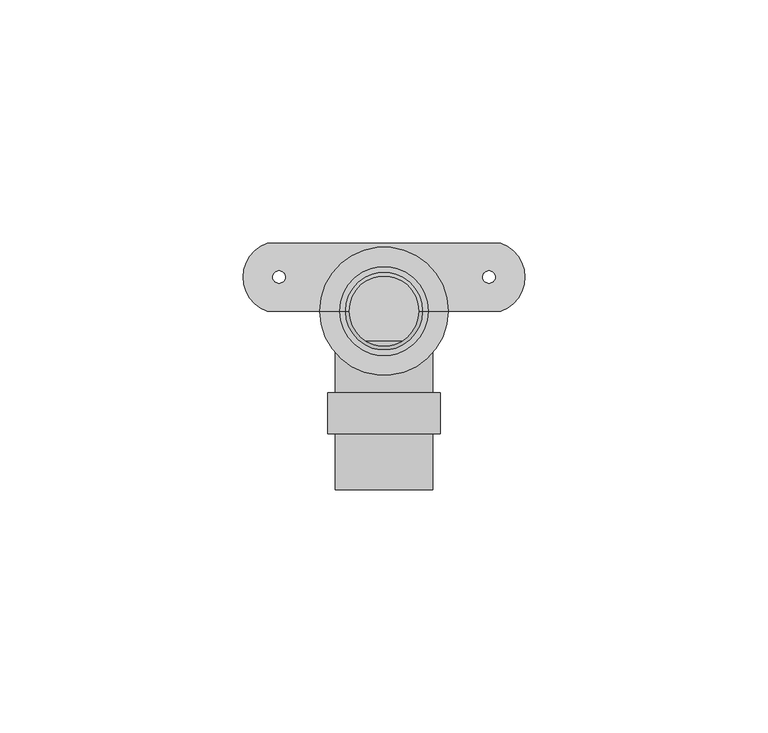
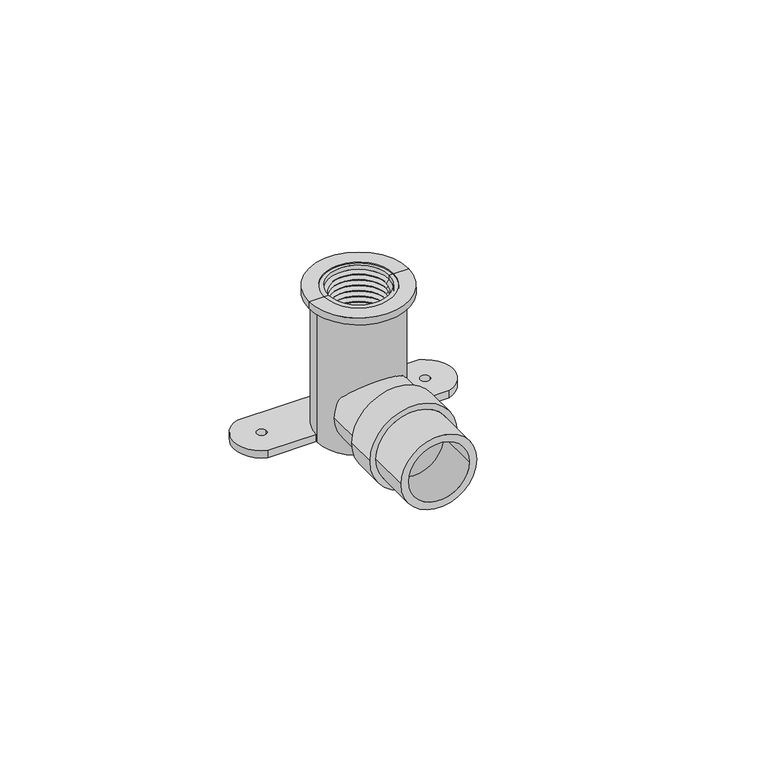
"""IFC4 building model written with IfcOpenShell, lengths in millimetres: valve geometry, Codo con Oreja con ins Metalico_Lubrizol_CPVC_FlowGuard_MX 13mm : Codo con Oreja con ins Metalico_Lubrizol_CPVC_FlowGuard_MX 13mm."""

from ifc_helpers import new_model, si_unit, point, frame, frame_2d, origin, origin_with_axes, origin_2d, place, context, project, spatial, polyline, circle_curve, trimmed, segment, composite_curve, outline, extrude, source, transform, mapped, element, save
from ifc_brep_helpers import plane_surface, cylinder_surface, revolved_surface, advanced_brep


def valve_4161f7cc(model_context):
    return source(origin(), model_context, "Body", "SolidModel", [
        extrude(outline(composite_curve([segment(trimmed(circle_curve(frame_2d((9.8875332, 0.0)), 10.0), [point((9.8875332, -10.0))], [point((9.8875332, 10.0))], False, "CARTESIAN"), True, "CONTINUOUS"), segment(trimmed(circle_curve(frame_2d((9.8875332, 0.0)), 10.0), [point((9.8875332, 10.0))], [point((9.8875332, -10.0))], False, "CARTESIAN"), True, "CONTINUOUS")], self_intersect=False), holes=[composite_curve([segment(trimmed(circle_curve(frame_2d((9.8875332, 0.0)), 8.0), [point((9.8875332, -8.0))], [point((9.8875332, 8.0))], True, "CARTESIAN"), True, "CONTINUOUS"), segment(trimmed(circle_curve(frame_2d((9.8875332, 0.0)), 8.0), [point((9.8875332, 8.0))], [point((9.8875332, -8.0))], True, "CARTESIAN"), True, "CONTINUOUS")], self_intersect=False)]), frame((0.0, -16.8122261, 0.0), z_axis=(0.0, 1.0, 0.0), x_axis=(0.0, 0.0, 1.0)), (0.0, 0.0, 1.0), 10.5840836),
        extrude(outline(composite_curve([segment(trimmed(circle_curve(frame_2d((9.8875332, 0.0)), 11.5511353), [point((9.8875332, -11.5511353))], [point((9.8875332, 11.5511353))], False, "CARTESIAN"), True, "CONTINUOUS"), segment(trimmed(circle_curve(frame_2d((9.8875332, 0.0)), 11.5511353), [point((9.8875332, 11.5511353))], [point((9.8875332, -11.5511353))], False, "CARTESIAN"), True, "CONTINUOUS")], self_intersect=False), holes=[composite_curve([segment(trimmed(circle_curve(frame_2d((9.8875332, 0.0)), 10.0), [point((9.8875332, -10.0))], [point((9.8875332, 10.0))], True, "CARTESIAN"), True, "CONTINUOUS"), segment(trimmed(circle_curve(frame_2d((9.8875332, 0.0)), 10.0), [point((9.8875332, 10.0))], [point((9.8875332, -10.0))], True, "CARTESIAN"), True, "CONTINUOUS")], self_intersect=False)]), frame((0.0, -25.2125014, 0.0), z_axis=(0.0, 1.0, 0.0), x_axis=(0.0, 0.0, 1.0)), (0.0, 0.0, 1.0), 8.4002753),
        advanced_brep(
        [(-9.1904738, 0.0, -0.0478204), (9.1904738, 0.0, -0.0478204), (9.1904738, 0.0, 39.8365206), (-9.1904738, 0.0, 39.8365206), (-11.0898031, 0.0, -0.0478204), (11.0898031, 0.0, -0.0478204), (-11.0898031, 0.0, 37.9677146), (11.0898031, 0.0, 37.9677146), (-13.2, 0.0, 37.9677146), (13.2, 0.0, 37.9677146), (-13.2, 0.0, 39.8365206), (13.2, 0.0, 39.8365206)],
        [
            (0, 1, circle_curve(frame((0.0, 0.0, -0.0478204), z_axis=(0.0, 0.0, -1.0), x_axis=(1.0, 0.0, 0.0)), 9.1904738)),
            (1, 2),
            (2, 3, circle_curve(frame((0.0, 0.0, 39.8365206), z_axis=(0.0, 0.0, 1.0), x_axis=(1.0, 0.0, 0.0)), 9.1904738)),
            (3, 0),
            (1, 0, circle_curve(frame((0.0, 0.0, -0.0478204), z_axis=(0.0, 0.0, -1.0), x_axis=(1.0, 0.0, 0.0)), 9.1904738)),
            (3, 2, circle_curve(frame((0.0, 0.0, 39.8365206), z_axis=(0.0, 0.0, 1.0), x_axis=(1.0, 0.0, 0.0)), 9.1904738)),
            (4, 5, circle_curve(frame((0.0, 0.0, -0.0478204), z_axis=(0.0, 0.0, -1.0), x_axis=(1.0, 0.0, 0.0)), 11.0898031)),
            (5, 1),
            (0, 4),
            (5, 4, circle_curve(frame((0.0, 0.0, -0.0478204), z_axis=(0.0, 0.0, -1.0), x_axis=(1.0, 0.0, 0.0)), 11.0898031)),
            (6, 7, circle_curve(frame((0.0, 0.0, 37.9677146), z_axis=(0.0, 0.0, -1.0), x_axis=(1.0, 0.0, 0.0)), 11.0898031)),
            (7, 5),
            (4, 6),
            (7, 6, circle_curve(frame((0.0, 0.0, 37.9677146), z_axis=(0.0, 0.0, -1.0), x_axis=(1.0, 0.0, 0.0)), 11.0898031)),
            (8, 9, circle_curve(frame((0.0, 0.0, 37.9677146), z_axis=(0.0, 0.0, -1.0), x_axis=(1.0, 0.0, 0.0)), 13.2)),
            (9, 7),
            (6, 8),
            (9, 8, circle_curve(frame((0.0, 0.0, 37.9677146), z_axis=(0.0, 0.0, -1.0), x_axis=(1.0, 0.0, 0.0)), 13.2)),
            (10, 11, circle_curve(frame((0.0, 0.0, 39.8365206), z_axis=(0.0, 0.0, -1.0), x_axis=(1.0, 0.0, 0.0)), 13.2)),
            (11, 9),
            (8, 10),
            (11, 10, circle_curve(frame((0.0, 0.0, 39.8365206), z_axis=(0.0, 0.0, -1.0), x_axis=(1.0, 0.0, 0.0)), 13.2)),
            (2, 11),
            (10, 3),
        ],
        [
            revolved_surface(polyline([(9.1904738, 0.0, 39.8365206), (9.1904738, 0.0, -0.0478203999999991)]), (0.0, 0.0, 44.8365206), (0.0, 0.0, 1.0)),
            plane_surface(frame((0.0, 0.0, -0.0478204), z_axis=(0.0, 0.0, -1.0), x_axis=(1.0, 0.0, 0.0))),
            cylinder_surface(frame((0.0, 0.0, 44.8365206), z_axis=(0.0, 0.0, 1.0), x_axis=(1.0, 0.0, 0.0)), 11.0898031),
            plane_surface(frame((0.0, 0.0, 37.9677146), z_axis=(0.0, 0.0, -1.0), x_axis=(1.0, 0.0, 0.0))),
            cylinder_surface(frame((0.0, 0.0, 44.8365206), z_axis=(0.0, 0.0, 1.0), x_axis=(1.0, 0.0, 0.0)), 13.2),
            plane_surface(frame((0.0, 0.0, 39.8365206), z_axis=(0.0, 0.0, 1.0), x_axis=(1.0, 0.0, 0.0))),
        ],
        [
            (0, [[1, 2, 3, 4]]),
            (0, [[5, -4, 6, -2]]),
            (1, [[7, 8, -1, 9]]),
            (1, [[10, -9, -5, -8]]),
            (2, [[11, 12, -7, 13]]),
            (2, [[14, -13, -10, -12]]),
            (3, [[15, 16, -11, 17]]),
            (3, [[18, -17, -14, -16]]),
            (4, [[19, 20, -15, 21]]),
            (4, [[22, -21, -18, -20]]),
            (5, [[-3, 23, -19, 24]]),
            (5, [[-6, -24, -22, -23]]),
        ],
    ),
        extrude(outline(composite_curve([segment(polyline([(-24.0, 14.0), (0.0, 14.0), (24.0, 14.0)]), True, "CONTINUOUS"), segment(trimmed(circle_curve(frame_2d((21.6, 7.0)), 7.4), [point((24.0, 14.0))], [point((24.0, 0.0))], False, "CARTESIAN"), True, "CONTINUOUS"), segment(polyline([(24.0, 0.0), (11.0898031, 0.0)]), True, "CONTINUOUS"), segment(trimmed(circle_curve(origin_2d(), 11.0898031), [point((11.0898031, 0.0))], [point((-11.0898031, 0.0))], False, "CARTESIAN"), True, "CONTINUOUS"), segment(polyline([(-11.0898031, 0.0), (-24.0, 0.0)]), True, "CONTINUOUS"), segment(trimmed(circle_curve(frame_2d((-21.6, 7.0)), 7.4), [point((-24.0, 0.0))], [point((-24.0, 14.0))], False, "CARTESIAN"), True, "CONTINUOUS")], self_intersect=False), holes=[composite_curve([segment(trimmed(circle_curve(frame_2d((21.6, 7.0)), 1.27), [point((20.33, 7.0))], [point((22.87, 7.0))], True, "CARTESIAN"), True, "CONTINUOUS"), segment(trimmed(circle_curve(frame_2d((21.6, 7.0)), 1.27), [point((22.87, 7.0))], [point((20.33, 7.0))], True, "CARTESIAN"), True, "CONTINUOUS")], self_intersect=False), composite_curve([segment(trimmed(circle_curve(frame_2d((-21.6, 7.0)), 1.27), [point((-20.33, 7.0))], [point((-22.87, 7.0))], True, "CARTESIAN"), True, "CONTINUOUS"), segment(trimmed(circle_curve(frame_2d((-21.6, 7.0)), 1.27), [point((-22.87, 7.0))], [point((-20.33, 7.0))], True, "CARTESIAN"), True, "CONTINUOUS")], self_intersect=False)]), origin_with_axes(), (0.0, 0.0, 1.0), 2.0104025),
        advanced_brep(
        [(10.0, 0.0, 9.8875332), (-10.0, 0.0, 9.8875332), (-10.0, 0.0, 39.8365206), (10.0, 0.0, 39.8365206), (8.0, 0.0, 9.8875332), (-8.0, 0.0, 9.8875332), (8.0, 0.0, 18.8060667), (-8.0, 0.0, 18.8060667), (7.2373503, 0.0, 19.5687164), (-7.2373503, 0.0, 19.5687164), (8.0, 0.0, 20.3313661), (-8.0, 0.0, 20.3313661), (7.2373503, 0.0, 21.0940159), (-7.2373503, 0.0, 21.0940159), (8.0, 0.0, 21.8566656), (-8.0, 0.0, 21.8566656), (7.2373503, 0.0, 22.6193153), (-7.2373503, 0.0, 22.6193153), (8.0, 0.0, 23.381965), (-8.0, 0.0, 23.381965), (7.2373503, 0.0, 24.1446148), (-7.2373503, 0.0, 24.1446148), (8.0, 0.0, 24.9072645), (-8.0, 0.0, 24.9072645), (7.2373503, 0.0, 25.6699142), (-7.2373503, 0.0, 25.6699142), (8.0, 0.0, 26.432564), (-8.0, 0.0, 26.432564), (7.2373503, 0.0, 27.1952137), (-7.2373503, 0.0, 27.1952137), (8.0, 0.0, 27.9578634), (-8.0, 0.0, 27.9578634), (7.2373503, 0.0, 28.7205131), (-7.2373503, 0.0, 28.7205131), (8.0, 0.0, 29.4831629), (-8.0, 0.0, 29.4831629), (7.2373503, 0.0, 30.2458126), (-7.2373503, 0.0, 30.2458126), (8.0, 0.0, 31.0084623), (-8.0, 0.0, 31.0084623), (7.2373503, 0.0, 31.771112), (-7.2373503, 0.0, 31.771112), (8.0, 0.0, 32.5337618), (-8.0, 0.0, 32.5337618), (7.2373503, 0.0, 33.2964115), (-7.2373503, 0.0, 33.2964115), (8.0, 0.0, 34.0590612), (-8.0, 0.0, 34.0590612), (7.2373503, 0.0, 34.821711), (-7.2373503, 0.0, 34.821711), (8.0, 0.0, 35.5843607), (-8.0, 0.0, 35.5843607), (7.2373503, 0.0, 36.3470104), (-7.2373503, 0.0, 36.3470104), (8.0, 0.0, 37.1096601), (-8.0, 0.0, 37.1096601), (7.2373503, 0.0, 37.8723099), (-7.2373503, 0.0, 37.8723099), (8.0, 0.0, 38.6349596), (-8.0, 0.0, 38.6349596), (8.0, 0.0, 39.8365206), (-8.0, 0.0, 39.8365206)],
        [
            (0, 1, circle_curve(frame((0.0, 0.0, 9.8875332), z_axis=(0.0, 0.0, 1.0), x_axis=(-1.0, 0.0, 0.0)), 10.0)),
            (1, 2),
            (2, 3, circle_curve(frame((0.0, 0.0, 39.8365206), z_axis=(0.0, 0.0, -1.0), x_axis=(-1.0, 0.0, 0.0)), 10.0)),
            (3, 0),
            (1, 0, circle_curve(frame((0.0, 0.0, 9.8875332), z_axis=(0.0, 0.0, 1.0), x_axis=(-1.0, 0.0, 0.0)), 10.0)),
            (3, 2, circle_curve(frame((0.0, 0.0, 39.8365206), z_axis=(0.0, 0.0, -1.0), x_axis=(-1.0, 0.0, 0.0)), 10.0)),
            (4, 5, circle_curve(frame((0.0, 0.0, 9.8875332), z_axis=(0.0, 0.0, 1.0), x_axis=(-1.0, 0.0, 0.0)), 8.0)),
            (5, 1),
            (0, 4),
            (5, 4, circle_curve(frame((0.0, 0.0, 9.8875332), z_axis=(0.0, 0.0, 1.0), x_axis=(-1.0, 0.0, 0.0)), 8.0)),
            (6, 7, circle_curve(frame((0.0, 0.0, 18.8060667), z_axis=(0.0, 0.0, 1.0), x_axis=(-1.0, 0.0, 0.0)), 8.0)),
            (7, 5),
            (4, 6),
            (7, 6, circle_curve(frame((0.0, 0.0, 18.8060667), z_axis=(0.0, 0.0, 1.0), x_axis=(-1.0, 0.0, 0.0)), 8.0)),
            (8, 9, circle_curve(frame((0.0, 0.0, 19.5687164), z_axis=(0.0, 0.0, 1.0), x_axis=(-1.0, 0.0, 0.0)), 7.2373503)),
            (9, 7),
            (6, 8),
            (9, 8, circle_curve(frame((0.0, 0.0, 19.5687164), z_axis=(0.0, 0.0, 1.0), x_axis=(-1.0, 0.0, 0.0)), 7.2373503)),
            (10, 11, circle_curve(frame((0.0, 0.0, 20.3313661), z_axis=(0.0, 0.0, 1.0), x_axis=(-1.0, 0.0, 0.0)), 8.0)),
            (11, 9),
            (8, 10),
            (11, 10, circle_curve(frame((0.0, 0.0, 20.3313661), z_axis=(0.0, 0.0, 1.0), x_axis=(-1.0, 0.0, 0.0)), 8.0)),
            (12, 13, circle_curve(frame((0.0, 0.0, 21.0940159), z_axis=(0.0, 0.0, 1.0), x_axis=(-1.0, 0.0, 0.0)), 7.2373503)),
            (13, 11),
            (10, 12),
            (13, 12, circle_curve(frame((0.0, 0.0, 21.0940159), z_axis=(0.0, 0.0, 1.0), x_axis=(-1.0, 0.0, 0.0)), 7.2373503)),
            (14, 15, circle_curve(frame((0.0, 0.0, 21.8566656), z_axis=(0.0, 0.0, 1.0), x_axis=(-1.0, 0.0, 0.0)), 8.0)),
            (15, 13),
            (12, 14),
            (15, 14, circle_curve(frame((0.0, 0.0, 21.8566656), z_axis=(0.0, 0.0, 1.0), x_axis=(-1.0, 0.0, 0.0)), 8.0)),
            (16, 17, circle_curve(frame((0.0, 0.0, 22.6193153), z_axis=(0.0, 0.0, 1.0), x_axis=(-1.0, 0.0, 0.0)), 7.2373503)),
            (17, 15),
            (14, 16),
            (17, 16, circle_curve(frame((0.0, 0.0, 22.6193153), z_axis=(0.0, 0.0, 1.0), x_axis=(-1.0, 0.0, 0.0)), 7.2373503)),
            (18, 19, circle_curve(frame((0.0, 0.0, 23.381965), z_axis=(0.0, 0.0, 1.0), x_axis=(-1.0, 0.0, 0.0)), 8.0)),
            (19, 17),
            (16, 18),
            (19, 18, circle_curve(frame((0.0, 0.0, 23.381965), z_axis=(0.0, 0.0, 1.0), x_axis=(-1.0, 0.0, 0.0)), 8.0)),
            (20, 21, circle_curve(frame((0.0, 0.0, 24.1446148), z_axis=(0.0, 0.0, 1.0), x_axis=(-1.0, 0.0, 0.0)), 7.2373503)),
            (21, 19),
            (18, 20),
            (21, 20, circle_curve(frame((0.0, 0.0, 24.1446148), z_axis=(0.0, 0.0, 1.0), x_axis=(-1.0, 0.0, 0.0)), 7.2373503)),
            (22, 23, circle_curve(frame((0.0, 0.0, 24.9072645), z_axis=(0.0, 0.0, 1.0), x_axis=(-1.0, 0.0, 0.0)), 8.0)),
            (23, 21),
            (20, 22),
            (23, 22, circle_curve(frame((0.0, 0.0, 24.9072645), z_axis=(0.0, 0.0, 1.0), x_axis=(-1.0, 0.0, 0.0)), 8.0)),
            (24, 25, circle_curve(frame((0.0, 0.0, 25.6699142), z_axis=(0.0, 0.0, 1.0), x_axis=(-1.0, 0.0, 0.0)), 7.2373503)),
            (25, 23),
            (22, 24),
            (25, 24, circle_curve(frame((0.0, 0.0, 25.6699142), z_axis=(0.0, 0.0, 1.0), x_axis=(-1.0, 0.0, 0.0)), 7.2373503)),
            (26, 27, circle_curve(frame((0.0, 0.0, 26.432564), z_axis=(0.0, 0.0, 1.0), x_axis=(-1.0, 0.0, 0.0)), 8.0)),
            (27, 25),
            (24, 26),
            (27, 26, circle_curve(frame((0.0, 0.0, 26.432564), z_axis=(0.0, 0.0, 1.0), x_axis=(-1.0, 0.0, 0.0)), 8.0)),
            (28, 29, circle_curve(frame((0.0, 0.0, 27.1952137), z_axis=(0.0, 0.0, 1.0), x_axis=(-1.0, 0.0, 0.0)), 7.2373503)),
            (29, 27),
            (26, 28),
            (29, 28, circle_curve(frame((0.0, 0.0, 27.1952137), z_axis=(0.0, 0.0, 1.0), x_axis=(-1.0, 0.0, 0.0)), 7.2373503)),
            (30, 31, circle_curve(frame((0.0, 0.0, 27.9578634), z_axis=(0.0, 0.0, 1.0), x_axis=(-1.0, 0.0, 0.0)), 8.0)),
            (31, 29),
            (28, 30),
            (31, 30, circle_curve(frame((0.0, 0.0, 27.9578634), z_axis=(0.0, 0.0, 1.0), x_axis=(-1.0, 0.0, 0.0)), 8.0)),
            (32, 33, circle_curve(frame((0.0, 0.0, 28.7205131), z_axis=(0.0, 0.0, 1.0), x_axis=(-1.0, 0.0, 0.0)), 7.2373503)),
            (33, 31),
            (30, 32),
            (33, 32, circle_curve(frame((0.0, 0.0, 28.7205131), z_axis=(0.0, 0.0, 1.0), x_axis=(-1.0, 0.0, 0.0)), 7.2373503)),
            (34, 35, circle_curve(frame((0.0, 0.0, 29.4831629), z_axis=(0.0, 0.0, 1.0), x_axis=(-1.0, 0.0, 0.0)), 8.0)),
            (35, 33),
            (32, 34),
            (35, 34, circle_curve(frame((0.0, 0.0, 29.4831629), z_axis=(0.0, 0.0, 1.0), x_axis=(-1.0, 0.0, 0.0)), 8.0)),
            (36, 37, circle_curve(frame((0.0, 0.0, 30.2458126), z_axis=(0.0, 0.0, 1.0), x_axis=(-1.0, 0.0, 0.0)), 7.2373503)),
            (37, 35),
            (34, 36),
            (37, 36, circle_curve(frame((0.0, 0.0, 30.2458126), z_axis=(0.0, 0.0, 1.0), x_axis=(-1.0, 0.0, 0.0)), 7.2373503)),
            (38, 39, circle_curve(frame((0.0, 0.0, 31.0084623), z_axis=(0.0, 0.0, 1.0), x_axis=(-1.0, 0.0, 0.0)), 8.0)),
            (39, 37),
            (36, 38),
            (39, 38, circle_curve(frame((0.0, 0.0, 31.0084623), z_axis=(0.0, 0.0, 1.0), x_axis=(-1.0, 0.0, 0.0)), 8.0)),
            (40, 41, circle_curve(frame((0.0, 0.0, 31.771112), z_axis=(0.0, 0.0, 1.0), x_axis=(-1.0, 0.0, 0.0)), 7.2373503)),
            (41, 39),
            (38, 40),
            (41, 40, circle_curve(frame((0.0, 0.0, 31.771112), z_axis=(0.0, 0.0, 1.0), x_axis=(-1.0, 0.0, 0.0)), 7.2373503)),
            (42, 43, circle_curve(frame((0.0, 0.0, 32.5337618), z_axis=(0.0, 0.0, 1.0), x_axis=(-1.0, 0.0, 0.0)), 8.0)),
            (43, 41),
            (40, 42),
            (43, 42, circle_curve(frame((0.0, 0.0, 32.5337618), z_axis=(0.0, 0.0, 1.0), x_axis=(-1.0, 0.0, 0.0)), 8.0)),
            (44, 45, circle_curve(frame((0.0, 0.0, 33.2964115), z_axis=(0.0, 0.0, 1.0), x_axis=(-1.0, 0.0, 0.0)), 7.2373503)),
            (45, 43),
            (42, 44),
            (45, 44, circle_curve(frame((0.0, 0.0, 33.2964115), z_axis=(0.0, 0.0, 1.0), x_axis=(-1.0, 0.0, 0.0)), 7.2373503)),
            (46, 47, circle_curve(frame((0.0, 0.0, 34.0590612), z_axis=(0.0, 0.0, 1.0), x_axis=(-1.0, 0.0, 0.0)), 8.0)),
            (47, 45),
            (44, 46),
            (47, 46, circle_curve(frame((0.0, 0.0, 34.0590612), z_axis=(0.0, 0.0, 1.0), x_axis=(-1.0, 0.0, 0.0)), 8.0)),
            (48, 49, circle_curve(frame((0.0, 0.0, 34.821711), z_axis=(0.0, 0.0, 1.0), x_axis=(-1.0, 0.0, 0.0)), 7.2373503)),
            (49, 47),
            (46, 48),
            (49, 48, circle_curve(frame((0.0, 0.0, 34.821711), z_axis=(0.0, 0.0, 1.0), x_axis=(-1.0, 0.0, 0.0)), 7.2373503)),
            (50, 51, circle_curve(frame((0.0, 0.0, 35.5843607), z_axis=(0.0, 0.0, 1.0), x_axis=(-1.0, 0.0, 0.0)), 8.0)),
            (51, 49),
            (48, 50),
            (51, 50, circle_curve(frame((0.0, 0.0, 35.5843607), z_axis=(0.0, 0.0, 1.0), x_axis=(-1.0, 0.0, 0.0)), 8.0)),
            (52, 53, circle_curve(frame((0.0, 0.0, 36.3470104), z_axis=(0.0, 0.0, 1.0), x_axis=(-1.0, 0.0, 0.0)), 7.2373503)),
            (53, 51),
            (50, 52),
            (53, 52, circle_curve(frame((0.0, 0.0, 36.3470104), z_axis=(0.0, 0.0, 1.0), x_axis=(-1.0, 0.0, 0.0)), 7.2373503)),
            (54, 55, circle_curve(frame((0.0, 0.0, 37.1096601), z_axis=(0.0, 0.0, 1.0), x_axis=(-1.0, 0.0, 0.0)), 8.0)),
            (55, 53),
            (52, 54),
            (55, 54, circle_curve(frame((0.0, 0.0, 37.1096601), z_axis=(0.0, 0.0, 1.0), x_axis=(-1.0, 0.0, 0.0)), 8.0)),
            (56, 57, circle_curve(frame((0.0, 0.0, 37.8723099), z_axis=(0.0, 0.0, 1.0), x_axis=(-1.0, 0.0, 0.0)), 7.2373503)),
            (57, 55),
            (54, 56),
            (57, 56, circle_curve(frame((0.0, 0.0, 37.8723099), z_axis=(0.0, 0.0, 1.0), x_axis=(-1.0, 0.0, 0.0)), 7.2373503)),
            (58, 59, circle_curve(frame((0.0, 0.0, 38.6349596), z_axis=(0.0, 0.0, 1.0), x_axis=(-1.0, 0.0, 0.0)), 8.0)),
            (59, 57),
            (56, 58),
            (59, 58, circle_curve(frame((0.0, 0.0, 38.6349596), z_axis=(0.0, 0.0, 1.0), x_axis=(-1.0, 0.0, 0.0)), 8.0)),
            (60, 61, circle_curve(frame((0.0, 0.0, 39.8365206), z_axis=(0.0, 0.0, 1.0), x_axis=(-1.0, 0.0, 0.0)), 8.0)),
            (61, 59),
            (58, 60),
            (61, 60, circle_curve(frame((0.0, 0.0, 39.8365206), z_axis=(0.0, 0.0, 1.0), x_axis=(-1.0, 0.0, 0.0)), 8.0)),
            (2, 61),
            (60, 3),
        ],
        [
            cylinder_surface(frame((0.0, 0.0, 39.8365206), z_axis=(0.0, 0.0, -1.0), x_axis=(-1.0, 0.0, 0.0)), 10.0),
            plane_surface(frame((0.0, 0.0, 9.8875332), z_axis=(0.0, 0.0, -1.0), x_axis=(-1.0, 0.0, 0.0))),
            revolved_surface(polyline([(-8.0, 0.0, 9.8875332), (-8.0, 0.0, 18.8060667)]), (0.0, 0.0, 39.8365206), (0.0, 0.0, -1.0)),
            revolved_surface(polyline([(-8.0, 0.0, 18.8060667), (-7.2373503, 0.0, 19.5687164)]), (0.0, 0.0, 39.8365206), (0.0, 0.0, -1.0)),
            revolved_surface(polyline([(-7.2373503, 0.0, 19.5687164), (-8.0, 0.0, 20.3313661)]), (0.0, 0.0, 39.8365206), (0.0, 0.0, -1.0)),
            revolved_surface(polyline([(-8.0, 0.0, 20.3313661), (-7.2373503, 0.0, 21.0940159)]), (0.0, 0.0, 39.8365206), (0.0, 0.0, -1.0)),
            revolved_surface(polyline([(-7.2373503, 0.0, 21.0940159), (-8.0, 0.0, 21.8566656)]), (0.0, 0.0, 39.8365206), (0.0, 0.0, -1.0)),
            revolved_surface(polyline([(-8.0, 0.0, 21.8566656), (-7.2373503, 0.0, 22.6193153)]), (0.0, 0.0, 39.8365206), (0.0, 0.0, -1.0)),
            revolved_surface(polyline([(-7.2373503, 0.0, 22.6193153), (-8.0, 0.0, 23.381965)]), (0.0, 0.0, 39.8365206), (0.0, 0.0, -1.0)),
            revolved_surface(polyline([(-8.0, 0.0, 23.381965), (-7.2373503, 0.0, 24.1446148)]), (0.0, 0.0, 39.8365206), (0.0, 0.0, -1.0)),
            revolved_surface(polyline([(-7.2373503, 0.0, 24.1446148), (-8.0, 0.0, 24.9072645)]), (0.0, 0.0, 39.8365206), (0.0, 0.0, -1.0)),
            revolved_surface(polyline([(-8.0, 0.0, 24.9072645), (-7.2373503, 0.0, 25.6699142)]), (0.0, 0.0, 39.8365206), (0.0, 0.0, -1.0)),
            revolved_surface(polyline([(-7.2373503, 0.0, 25.6699142), (-8.0, 0.0, 26.432564)]), (0.0, 0.0, 39.8365206), (0.0, 0.0, -1.0)),
            revolved_surface(polyline([(-8.0, 0.0, 26.432564), (-7.2373503, 0.0, 27.1952137)]), (0.0, 0.0, 39.8365206), (0.0, 0.0, -1.0)),
            revolved_surface(polyline([(-7.2373503, 0.0, 27.1952137), (-8.0, 0.0, 27.9578634)]), (0.0, 0.0, 39.8365206), (0.0, 0.0, -1.0)),
            revolved_surface(polyline([(-8.0, 0.0, 27.9578634), (-7.2373503, 0.0, 28.7205131)]), (0.0, 0.0, 39.8365206), (0.0, 0.0, -1.0)),
            revolved_surface(polyline([(-7.2373503, 0.0, 28.7205131), (-8.0, 0.0, 29.4831629)]), (0.0, 0.0, 39.8365206), (0.0, 0.0, -1.0)),
            revolved_surface(polyline([(-8.0, 0.0, 29.4831629), (-7.2373503, 0.0, 30.2458126)]), (0.0, 0.0, 39.8365206), (0.0, 0.0, -1.0)),
            revolved_surface(polyline([(-7.2373503, 0.0, 30.2458126), (-8.0, 0.0, 31.0084623)]), (0.0, 0.0, 39.8365206), (0.0, 0.0, -1.0)),
            revolved_surface(polyline([(-8.0, 0.0, 31.0084623), (-7.2373503, 0.0, 31.771112)]), (0.0, 0.0, 39.8365206), (0.0, 0.0, -1.0)),
            revolved_surface(polyline([(-7.2373503, 0.0, 31.771112), (-8.0, 0.0, 32.5337618)]), (0.0, 0.0, 39.8365206), (0.0, 0.0, -1.0)),
            revolved_surface(polyline([(-8.0, 0.0, 32.5337618), (-7.2373503, 0.0, 33.2964115)]), (0.0, 0.0, 39.8365206), (0.0, 0.0, -1.0)),
            revolved_surface(polyline([(-7.2373503, 0.0, 33.2964115), (-8.0, 0.0, 34.0590612)]), (0.0, 0.0, 39.8365206), (0.0, 0.0, -1.0)),
            revolved_surface(polyline([(-8.0, 0.0, 34.0590612), (-7.2373503, 0.0, 34.821711)]), (0.0, 0.0, 39.8365206), (0.0, 0.0, -1.0)),
            revolved_surface(polyline([(-7.2373503, 0.0, 34.821711), (-8.0, 0.0, 35.5843607)]), (0.0, 0.0, 39.8365206), (0.0, 0.0, -1.0)),
            revolved_surface(polyline([(-8.0, 0.0, 35.5843607), (-7.2373503, 0.0, 36.3470104)]), (0.0, 0.0, 39.8365206), (0.0, 0.0, -1.0)),
            revolved_surface(polyline([(-7.2373503, 0.0, 36.3470104), (-8.0, 0.0, 37.1096601)]), (0.0, 0.0, 39.8365206), (0.0, 0.0, -1.0)),
            revolved_surface(polyline([(-8.0, 0.0, 37.1096601), (-7.2373503, 0.0, 37.8723099)]), (0.0, 0.0, 39.8365206), (0.0, 0.0, -1.0)),
            revolved_surface(polyline([(-7.2373503, 0.0, 37.8723099), (-8.0, 0.0, 38.6349596)]), (0.0, 0.0, 39.8365206), (0.0, 0.0, -1.0)),
            revolved_surface(polyline([(-8.0, 0.0, 38.6349596), (-8.0, 0.0, 39.8365206)]), (0.0, 0.0, 39.8365206), (0.0, 0.0, -1.0)),
            plane_surface(frame((0.0, 0.0, 39.8365206), z_axis=(0.0, 0.0, 1.0), x_axis=(-1.0, 0.0, 0.0))),
        ],
        [
            (0, [[1, 2, 3, 4]]),
            (0, [[5, -4, 6, -2]]),
            (1, [[7, 8, -1, 9]]),
            (1, [[10, -9, -5, -8]]),
            (2, [[11, 12, -7, 13]]),
            (2, [[14, -13, -10, -12]]),
            (3, [[15, 16, -11, 17]]),
            (3, [[18, -17, -14, -16]]),
            (4, [[19, 20, -15, 21]]),
            (4, [[22, -21, -18, -20]]),
            (5, [[23, 24, -19, 25]]),
            (5, [[26, -25, -22, -24]]),
            (6, [[27, 28, -23, 29]]),
            (6, [[30, -29, -26, -28]]),
            (7, [[31, 32, -27, 33]]),
            (7, [[34, -33, -30, -32]]),
            (8, [[35, 36, -31, 37]]),
            (8, [[38, -37, -34, -36]]),
            (9, [[39, 40, -35, 41]]),
            (9, [[42, -41, -38, -40]]),
            (10, [[43, 44, -39, 45]]),
            (10, [[46, -45, -42, -44]]),
            (11, [[47, 48, -43, 49]]),
            (11, [[50, -49, -46, -48]]),
            (12, [[51, 52, -47, 53]]),
            (12, [[54, -53, -50, -52]]),
            (13, [[55, 56, -51, 57]]),
            (13, [[58, -57, -54, -56]]),
            (14, [[59, 60, -55, 61]]),
            (14, [[62, -61, -58, -60]]),
            (15, [[63, 64, -59, 65]]),
            (15, [[66, -65, -62, -64]]),
            (16, [[67, 68, -63, 69]]),
            (16, [[70, -69, -66, -68]]),
            (17, [[71, 72, -67, 73]]),
            (17, [[74, -73, -70, -72]]),
            (18, [[75, 76, -71, 77]]),
            (18, [[78, -77, -74, -76]]),
            (19, [[79, 80, -75, 81]]),
            (19, [[82, -81, -78, -80]]),
            (20, [[83, 84, -79, 85]]),
            (20, [[86, -85, -82, -84]]),
            (21, [[87, 88, -83, 89]]),
            (21, [[90, -89, -86, -88]]),
            (22, [[91, 92, -87, 93]]),
            (22, [[94, -93, -90, -92]]),
            (23, [[95, 96, -91, 97]]),
            (23, [[98, -97, -94, -96]]),
            (24, [[99, 100, -95, 101]]),
            (24, [[102, -101, -98, -100]]),
            (25, [[103, 104, -99, 105]]),
            (25, [[106, -105, -102, -104]]),
            (26, [[107, 108, -103, 109]]),
            (26, [[110, -109, -106, -108]]),
            (27, [[111, 112, -107, 113]]),
            (27, [[114, -113, -110, -112]]),
            (28, [[115, 116, -111, 117]]),
            (28, [[118, -117, -114, -116]]),
            (29, [[119, 120, -115, 121]]),
            (29, [[122, -121, -118, -120]]),
            (30, [[-3, 123, -119, 124]]),
            (30, [[-6, -124, -122, -123]]),
        ],
    ),
        extrude(outline(composite_curve([segment(trimmed(circle_curve(frame_2d((9.8875332, 0.0)), 10.0), [point((9.8875332, -10.0))], [point((9.8875332, 10.0))], False, "CARTESIAN"), True, "CONTINUOUS"), segment(trimmed(circle_curve(frame_2d((9.8875332, 0.0)), 10.0), [point((9.8875332, 10.0))], [point((9.8875332, -10.0))], False, "CARTESIAN"), True, "CONTINUOUS")], self_intersect=False), holes=[composite_curve([segment(trimmed(circle_curve(frame_2d((9.8875332, 0.0)), 8.0), [point((9.8875332, -8.0))], [point((9.8875332, 8.0))], True, "CARTESIAN"), True, "CONTINUOUS"), segment(trimmed(circle_curve(frame_2d((9.8875332, 0.0)), 8.0), [point((9.8875332, 8.0))], [point((9.8875332, -8.0))], True, "CARTESIAN"), True, "CONTINUOUS")], self_intersect=False)]), frame((0.0, -36.7535616, 0.0), z_axis=(0.0, 1.0, 0.0), x_axis=(0.0, 0.0, 1.0)), (0.0, 0.0, 1.0), 11.5410602),
    ])


if __name__ == "__main__":
    model = new_model("IFC4")
    model_context = context("Model", 3, world=origin())
    ifc_project = project(units=[si_unit("LENGTHUNIT", "METRE", prefix="MILLI")], contexts=[model_context])
    site = spatial("IfcSite", under=ifc_project)
    building = spatial("IfcBuilding", under=site)
    placement = place(None, origin())
    valve_shape = valve_4161f7cc(model_context)
    element("IfcValve", 1, ObjectType="Codo con Oreja con ins Metalico_Lubrizol_CPVC_FlowGuard_MX 13mm : Codo con Oreja con ins Metalico_Lubrizol_CPVC_FlowGuard_MX 13mm", at=placement, inside=building, context=model_context, shape_type="MappedRepresentation", body=[
        mapped(valve_shape, transform((0.0, 0.0, 0.0), x_axis=(1.0, 0.0, 0.0), y_axis=(0.0, 1.0, 0.0), z_axis=(0.0, 0.0, 1.0))),
    ])
    save(model, "model.ifc")
